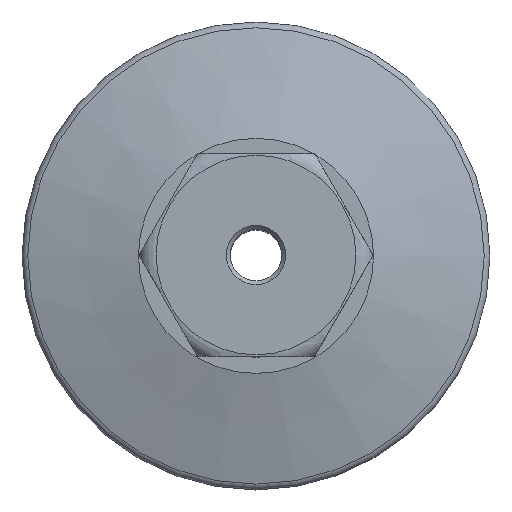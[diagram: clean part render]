
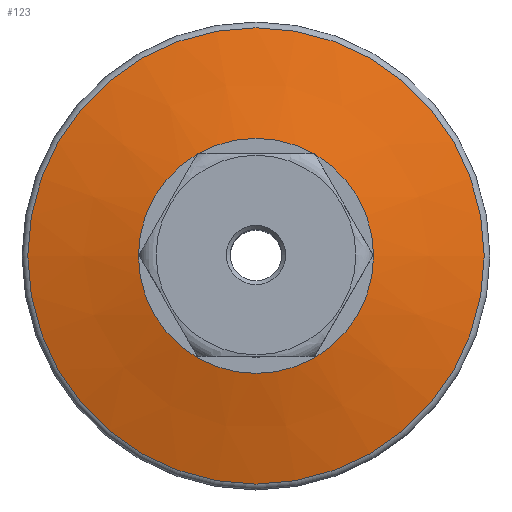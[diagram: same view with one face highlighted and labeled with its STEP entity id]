
A CAD part, top view. The second image highlights one B-rep face of the part: STEP entity #123.
In plain terms, the highlighted conical face has half-angle 75 degrees and reference radius 7.536 mm.
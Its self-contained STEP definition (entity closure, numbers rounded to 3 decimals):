
#123 = ADVANCED_FACE( '', ( #253, #254 ), #255, .T. );
#253 = FACE_OUTER_BOUND( '', #403, .T. );
#254 = FACE_BOUND( '', #404, .T. );
#255 = CONICAL_SURFACE( '', #405, 7.536, 1.309 );
#403 = EDGE_LOOP( '', ( #561 ) );
#404 = EDGE_LOOP( '', ( #562 ) );
#405 = AXIS2_PLACEMENT_3D( '', #563, #564, #565 );
#561 = ORIENTED_EDGE( '', *, *, #795, .T. );
#562 = ORIENTED_EDGE( '', *, *, #788, .F. );
#563 = CARTESIAN_POINT( '', ( 0., 0., 5. ) );
#564 = DIRECTION( '', ( 0., 0., -1. ) );
#565 = DIRECTION( '', ( -1., 0., 0. ) );
#788 = EDGE_CURVE( '', #896, #896, #897, .T. );
#795 = EDGE_CURVE( '', #907, #907, #908, .T. );
#896 = VERTEX_POINT( '', #1041 );
#897 = CIRCLE( '', #1042, 7.536 );
#907 = VERTEX_POINT( '', #1052 );
#908 = CIRCLE( '', #1053, 14.629 );
#1041 = CARTESIAN_POINT( '', ( 7.536, 0., 5. ) );
#1042 = AXIS2_PLACEMENT_3D( '', #1573, #1574, #1575 );
#1052 = CARTESIAN_POINT( '', ( 14.629, 0., 3.099 ) );
#1053 = AXIS2_PLACEMENT_3D( '', #1585, #1586, #1587 );
#1573 = CARTESIAN_POINT( '', ( 0., 0., 5. ) );
#1574 = DIRECTION( '', ( 0., 0., 1. ) );
#1575 = DIRECTION( '', ( 1., 0., 0. ) );
#1585 = CARTESIAN_POINT( '', ( 0., 0., 3.099 ) );
#1586 = DIRECTION( '', ( 0., 0., 1. ) );
#1587 = DIRECTION( '', ( 1., 0., 0. ) );
